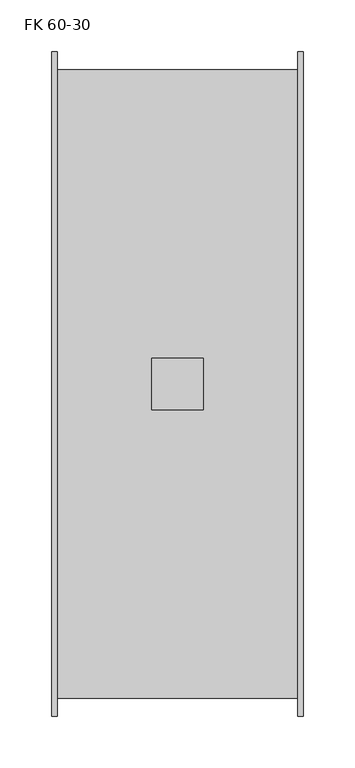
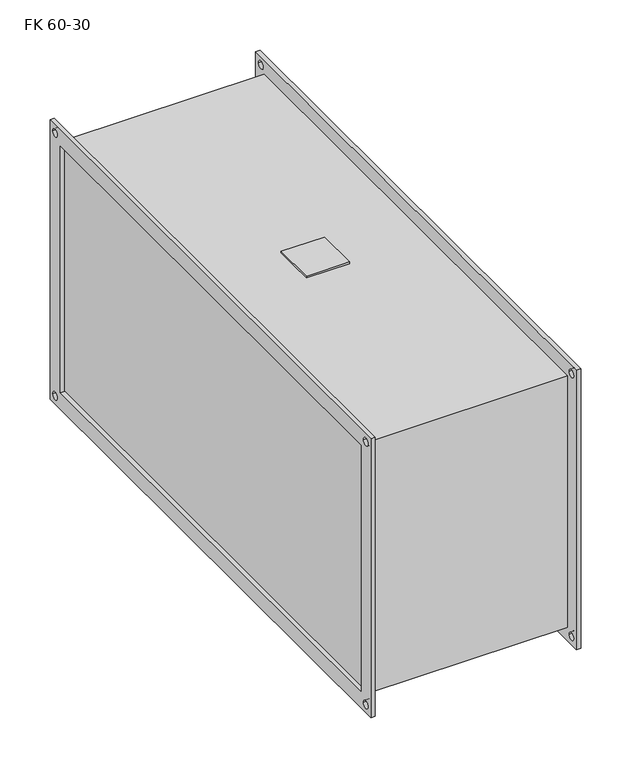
"""IFC4 building model written with IfcOpenShell, lengths in millimetres: damper geometry, KORF_Фильтр_Кассетный_FK : FK 60-30."""

from ifc_helpers import new_model, si_unit, point, frame, frame_2d, origin, place, context, project, spatial, polyline, circle_curve, trimmed, segment, composite_curve, outline, extrude, source, transform, mapped, element, save


def fk_60_30_f3dd4c19(model_context):
    return source(origin(), model_context, "Body", "SweptSolid", [
        extrude(outline(polyline([(96.0, -25.0), (96.0, 25.0), (146.0, 25.0), (146.0, -25.0), (96.0, -25.0)])), frame((0.0, 0.0, 153.0), z_axis=(0.0, 0.0, 1.0), x_axis=(1.0, 0.0, 0.0)), (0.0, 0.0, 1.0), 2.0),
        extrude(outline(polyline([(-320.0, 170.0), (320.0, 170.0), (320.0, -170.0), (-320.0, -170.0), (-320.0, 170.0)]), holes=[polyline([(-300.0, 150.0), (-300.0, -150.0), (300.0, -150.0), (300.0, 150.0), (-300.0, 150.0)]), composite_curve([segment(trimmed(circle_curve(frame_2d((310.0, 160.0)), 4.5), [point((305.5, 160.0))], [point((314.5, 160.0))], True, "CARTESIAN"), True, "CONTINUOUS"), segment(trimmed(circle_curve(frame_2d((310.0, 160.0)), 4.5), [point((314.5, 160.0))], [point((305.5, 160.0))], True, "CARTESIAN"), True, "CONTINUOUS")], self_intersect=False), composite_curve([segment(trimmed(circle_curve(frame_2d((-310.0, 160.0)), 4.5), [point((-314.5, 160.0))], [point((-305.5, 160.0))], True, "CARTESIAN"), True, "CONTINUOUS"), segment(trimmed(circle_curve(frame_2d((-310.0, 160.0)), 4.5), [point((-305.5, 160.0))], [point((-314.5, 160.0))], True, "CARTESIAN"), True, "CONTINUOUS")], self_intersect=False), composite_curve([segment(trimmed(circle_curve(frame_2d((-310.0, -160.0)), 4.5), [point((-314.5, -160.0))], [point((-305.5, -160.0))], True, "CARTESIAN"), True, "CONTINUOUS"), segment(trimmed(circle_curve(frame_2d((-310.0, -160.0)), 4.5), [point((-305.5, -160.0))], [point((-314.5, -160.0))], True, "CARTESIAN"), True, "CONTINUOUS")], self_intersect=False), composite_curve([segment(trimmed(circle_curve(frame_2d((310.0, -160.0)), 4.5), [point((305.5, -160.0))], [point((314.5, -160.0))], True, "CARTESIAN"), True, "CONTINUOUS"), segment(trimmed(circle_curve(frame_2d((310.0, -160.0)), 4.5), [point((314.5, -160.0))], [point((305.5, -160.0))], True, "CARTESIAN"), True, "CONTINUOUS")], self_intersect=False)]), frame((237.0, 0.0, 0.0), z_axis=(1.0, 0.0, 0.0), x_axis=(0.0, 1.0, 0.0)), (0.0, 0.0, 1.0), 5.0),
        extrude(outline(polyline([(-320.0, 170.0), (320.0, 170.0), (320.0, -170.0), (-320.0, -170.0), (-320.0, 170.0)]), holes=[polyline([(-300.0, 150.0), (-300.0, -150.0), (300.0, -150.0), (300.0, 150.0), (-300.0, 150.0)]), composite_curve([segment(trimmed(circle_curve(frame_2d((310.0, 160.0)), 4.5), [point((305.5, 160.0))], [point((314.5, 160.0))], True, "CARTESIAN"), True, "CONTINUOUS"), segment(trimmed(circle_curve(frame_2d((310.0, 160.0)), 4.5), [point((314.5, 160.0))], [point((305.5, 160.0))], True, "CARTESIAN"), True, "CONTINUOUS")], self_intersect=False), composite_curve([segment(trimmed(circle_curve(frame_2d((-310.0, 160.0)), 4.5), [point((-314.5, 160.0))], [point((-305.5, 160.0))], True, "CARTESIAN"), True, "CONTINUOUS"), segment(trimmed(circle_curve(frame_2d((-310.0, 160.0)), 4.5), [point((-305.5, 160.0))], [point((-314.5, 160.0))], True, "CARTESIAN"), True, "CONTINUOUS")], self_intersect=False), composite_curve([segment(trimmed(circle_curve(frame_2d((-310.0, -160.0)), 4.5), [point((-314.5, -160.0))], [point((-305.5, -160.0))], True, "CARTESIAN"), True, "CONTINUOUS"), segment(trimmed(circle_curve(frame_2d((-310.0, -160.0)), 4.5), [point((-305.5, -160.0))], [point((-314.5, -160.0))], True, "CARTESIAN"), True, "CONTINUOUS")], self_intersect=False), composite_curve([segment(trimmed(circle_curve(frame_2d((310.0, -160.0)), 4.5), [point((305.5, -160.0))], [point((314.5, -160.0))], True, "CARTESIAN"), True, "CONTINUOUS"), segment(trimmed(circle_curve(frame_2d((310.0, -160.0)), 4.5), [point((314.5, -160.0))], [point((305.5, -160.0))], True, "CARTESIAN"), True, "CONTINUOUS")], self_intersect=False)]), frame((0.0, 0.0, 0.0), z_axis=(1.0, 0.0, 0.0), x_axis=(0.0, 1.0, 0.0)), (0.0, 0.0, 1.0), 5.0),
        extrude(outline(polyline([(237.0, 303.0), (237.0, -303.0), (5.0, -303.0), (5.0, 303.0), (237.0, 303.0)])), frame((0.0, 0.0, -153.0), z_axis=(0.0, 0.0, 1.0), x_axis=(1.0, 0.0, 0.0)), (0.0, 0.0, 1.0), 306.0),
    ])


if __name__ == "__main__":
    model = new_model("IFC4")
    model_context = context("Model", 3, world=origin())
    ifc_project = project(units=[si_unit("LENGTHUNIT", "METRE", prefix="MILLI")], contexts=[model_context])
    site = spatial("IfcSite", under=ifc_project)
    building = spatial("IfcBuilding", under=site)
    placement = place(None, origin())
    fk_60_30_shape = fk_60_30_f3dd4c19(model_context)
    element("IfcDamper", 1, ObjectType="KORF_Фильтр_Кассетный_FK : FK 60-30", at=placement, inside=building, context=model_context, shape_type="MappedRepresentation", body=[
        mapped(fk_60_30_shape, transform((0.0, 0.0, 0.0), x_axis=(1.0, 0.0, 0.0), y_axis=(0.0, 1.0, 0.0), z_axis=(0.0, 0.0, 1.0))),
    ])
    save(model, "model.ifc")
